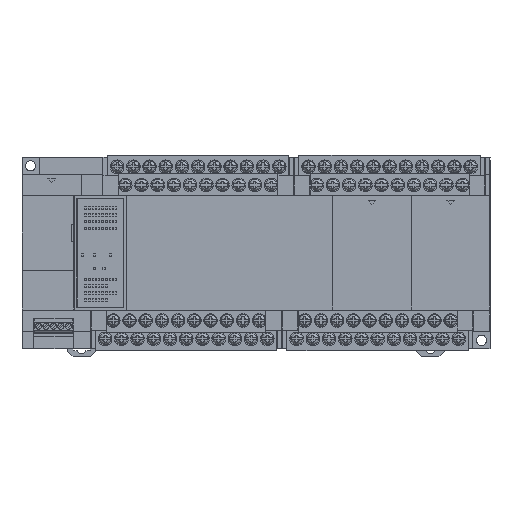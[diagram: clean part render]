
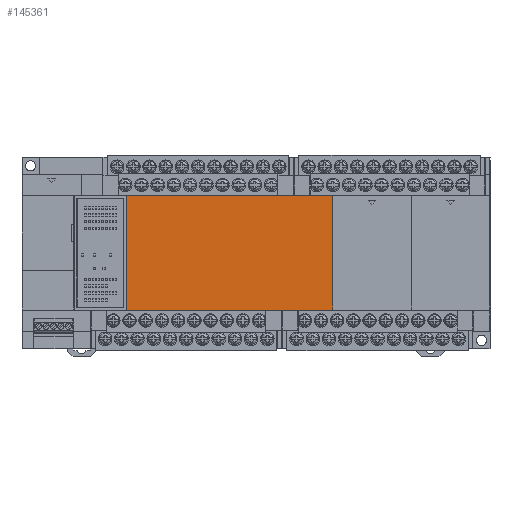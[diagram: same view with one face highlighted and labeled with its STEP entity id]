
A CAD part, top view. The second image highlights one B-rep face of the part: STEP entity #145361.
In plain terms, the highlighted planar face has unit normal (0, 0, 1).
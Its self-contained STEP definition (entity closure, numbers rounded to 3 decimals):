
#98611 = LINE ( 'NONE', #98644, #98651 ) ;
#98641 = DIRECTION ( 'NONE',  ( 1., 0., 0. ) ) ;
#98644 = CARTESIAN_POINT ( 'NONE',  ( 106.1, -26.9, 82. ) ) ;
#98651 = VECTOR ( 'NONE', #98641, 1000. ) ;
#98749 = CARTESIAN_POINT ( 'NONE',  ( 146., 26.9, 82. ) ) ;
#98763 = FACE_OUTER_BOUND ( 'NONE', #144968, .T. ) ;
#98768 = DIRECTION ( 'NONE',  ( -1., 0., 0. ) ) ;
#98769 = VECTOR ( 'NONE', #98768, 1000. ) ;
#98770 = CARTESIAN_POINT ( 'NONE',  ( 117.85, 26.9, 82. ) ) ;
#98771 = LINE ( 'NONE', #98770, #98769 ) ;
#98775 = CARTESIAN_POINT ( 'NONE',  ( 146., 0., 82. ) ) ;
#98776 = LINE ( 'NONE', #98775, #98778 ) ;
#98777 = DIRECTION ( 'NONE',  ( 0., 1., 0. ) ) ;
#98778 = VECTOR ( 'NONE', #98777, 1000. ) ;
#98782 = CARTESIAN_POINT ( 'NONE',  ( 146., -26.9, 82. ) ) ;
#98790 = DIRECTION ( 'NONE',  ( 1., 0., 0. ) ) ;
#98793 = AXIS2_PLACEMENT_3D ( 'NONE', #98806, #98798, #98790 ) ;
#98798 = DIRECTION ( 'NONE',  ( 0., 0., 1. ) ) ;
#98804 = PLANE ( 'NONE',  #98793 ) ;
#98806 = CARTESIAN_POINT ( 'NONE',  ( 49.3, -26.9, 82. ) ) ;
#111742 = CARTESIAN_POINT ( 'NONE',  ( 49.3, -26.9, 82. ) ) ;
#111849 = CARTESIAN_POINT ( 'NONE',  ( 49.3, 26.9, 82. ) ) ;
#112135 = DIRECTION ( 'NONE',  ( 0., -1., 0. ) ) ;
#112137 = VECTOR ( 'NONE', #112135, 1000. ) ;
#112150 = CARTESIAN_POINT ( 'NONE',  ( 49.3, 0., 82. ) ) ;
#112152 = LINE ( 'NONE', #112150, #112137 ) ;
#144968 = EDGE_LOOP ( 'NONE', ( #145252, #145133, #144971, #145125 ) ) ;
#144971 = ORIENTED_EDGE ( 'NONE', *, *, #145134, .T. ) ;
#144972 = EDGE_CURVE ( 'NONE', #155656, #145254, #98611, .T. ) ;
#144989 = VERTEX_POINT ( 'NONE', #98749 ) ;
#145125 = ORIENTED_EDGE ( 'NONE', *, *, #145142, .T. ) ;
#145133 = ORIENTED_EDGE ( 'NONE', *, *, #144972, .T. ) ;
#145134 = EDGE_CURVE ( 'NONE', #145254, #144989, #98776, .T. ) ;
#145142 = EDGE_CURVE ( 'NONE', #144989, #155667, #98771, .T. ) ;
#145252 = ORIENTED_EDGE ( 'NONE', *, *, #155813, .T. ) ;
#145254 = VERTEX_POINT ( 'NONE', #98782 ) ;
#145361 = ADVANCED_FACE ( 'NONE', ( #98763 ), #98804, .T. ) ;
#155656 = VERTEX_POINT ( 'NONE', #111742 ) ;
#155667 = VERTEX_POINT ( 'NONE', #111849 ) ;
#155813 = EDGE_CURVE ( 'NONE', #155667, #155656, #112152, .T. ) ;
